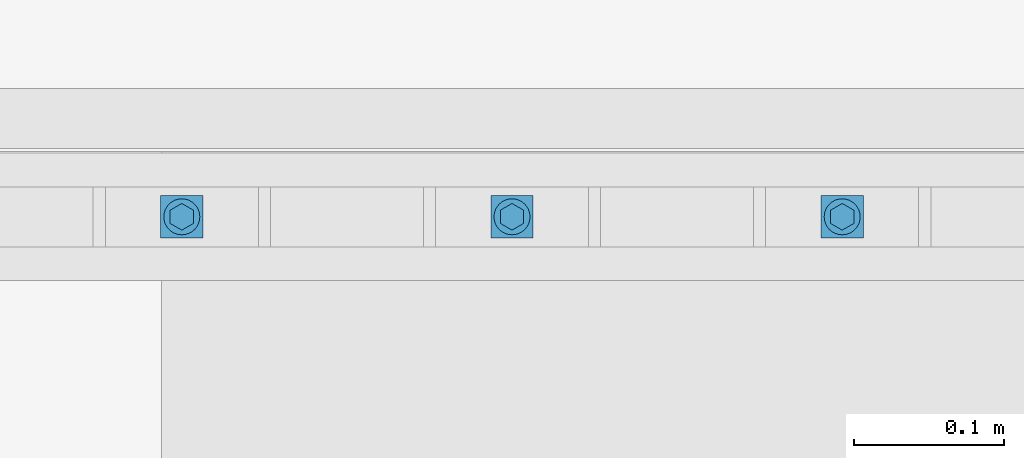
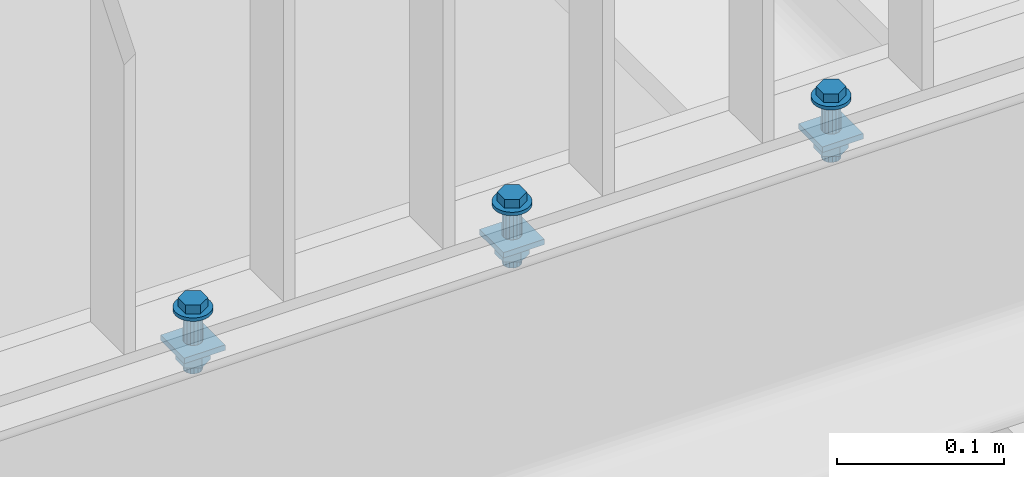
# One storey, part 53 of 145: 3 mechanical fasteners.
"""IFC2X3 building model written with IfcOpenShell, lengths in millimetres."""

from ifc_helpers import new_model, entity, si_unit, converted_unit, origin_with_axes, place, context, project, spatial, faceted_brep, element, save


model = new_model("IFC2X3")

# Units and contexts
model_context = context("Model", 3, precision=1e-09, world=origin_with_axes())
ifc_project = project(units=[si_unit("LENGTHUNIT", "METRE", prefix="MILLI"), si_unit("AREAUNIT", "SQUARE_METRE"), si_unit("VOLUMEUNIT", "CUBIC_METRE"), converted_unit("PLANEANGLEUNIT", "DEGREE", entity("IfcPlaneAngleMeasure", 0.01745329), si_unit("PLANEANGLEUNIT", "RADIAN"), dimensions=[0, 0, 0, 0, 0, 0, 0])], contexts=[model_context])

# Site, building, storey
site_placement = place(None, origin_with_axes())
site = spatial("IfcSite", under=ifc_project, at=site_placement, Name="BZ1 Grund- und Mittelschule 85716 Unterschlei?heim", CompositionType="ELEMENT")
building_placement = place(site_placement, origin_with_axes())
building = spatial("IfcBuilding", under=site, at=building_placement, Name="Struktur 1", CompositionType="ELEMENT")
storey_placement = place(building_placement, origin_with_axes())
storey = spatial("IfcBuildingStorey", under=building, at=storey_placement, Name="Default Storey", CompositionType="ELEMENT", Elevation=0.0)

# Mechanical fasteners
mechanical_fastener_1_placement = place(None, origin_with_axes())
element("IfcMechanicalFastener", 1, at=mechanical_fastener_1_placement, inside=storey, ObjectType="-", NominalDiameter=12.0, NominalLength=45.0, context=model_context, shape_type="Brep", body=[
    faceted_brep([(16730.141490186, -1512.502, 3308.000000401), (16730.141490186, -1512.502, 3310.500000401), (16729.910913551, -1514.843083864, 3310.500000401), (16729.910913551, -1514.843083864, 3308.000000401), (16729.228044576, -1517.094201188, 3310.500000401), (16729.228044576, -1517.094201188, 3308.000000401), (16728.119125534, -1519.168842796, 3310.500000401), (16728.119125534, -1519.168842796, 3308.000000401), (16726.62677156, -1520.987281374, 3310.500000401), (16726.62677156, -1520.987281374, 3308.000000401), (16724.808332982, -1522.479635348, 3310.500000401), (16724.808332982, -1522.479635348, 3308.000000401), (16722.733691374, -1523.58855439, 3310.500000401), (16722.733691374, -1523.58855439, 3308.000000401), (16720.48257405, -1524.271423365, 3310.500000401), (16720.48257405, -1524.271423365, 3308.000000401), (16718.141490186, -1524.502, 3310.500000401), (16718.141490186, -1524.502, 3308.000000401), (16715.800406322, -1524.271423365, 3310.500000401), (16715.800406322, -1524.271423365, 3308.000000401), (16713.549288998, -1523.58855439, 3310.500000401), (16713.549288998, -1523.58855439, 3308.000000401), (16711.47464739, -1522.479635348, 3310.500000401), (16711.47464739, -1522.479635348, 3308.000000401), (16709.656208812, -1520.987281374, 3310.500000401), (16709.656208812, -1520.987281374, 3308.000000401), (16708.163854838, -1519.168842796, 3310.500000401), (16708.163854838, -1519.168842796, 3308.000000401), (16707.054935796, -1517.094201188, 3310.500000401), (16707.054935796, -1517.094201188, 3308.000000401), (16706.372066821, -1514.843083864, 3310.500000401), (16706.372066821, -1514.843083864, 3308.000000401), (16706.141490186, -1512.502, 3310.500000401), (16706.141490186, -1512.502, 3308.000000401), (16706.372066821, -1510.160916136, 3310.500000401), (16706.372066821, -1510.160916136, 3308.000000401), (16707.054935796, -1507.909798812, 3310.500000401), (16707.054935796, -1507.909798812, 3308.000000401), (16708.163854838, -1505.835157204, 3310.500000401), (16708.163854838, -1505.835157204, 3308.000000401), (16709.656208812, -1504.016718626, 3310.500000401), (16709.656208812, -1504.016718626, 3308.000000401), (16711.47464739, -1502.524364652, 3310.500000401), (16711.47464739, -1502.524364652, 3308.000000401), (16713.549288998, -1501.41544561, 3310.500000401), (16713.549288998, -1501.41544561, 3308.000000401), (16715.800406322, -1500.732576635, 3310.500000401), (16715.800406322, -1500.732576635, 3308.000000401), (16718.141490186, -1500.502, 3310.500000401), (16718.141490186, -1500.502, 3308.000000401), (16720.48257405, -1500.732576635, 3310.500000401), (16720.48257405, -1500.732576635, 3308.000000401), (16722.733691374, -1501.41544561, 3310.500000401), (16722.733691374, -1501.41544561, 3308.000000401), (16724.808332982, -1502.524364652, 3310.500000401), (16724.808332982, -1502.524364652, 3308.000000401), (16726.62677156, -1504.016718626, 3310.500000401), (16726.62677156, -1504.016718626, 3308.000000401), (16728.119125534, -1505.835157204, 3310.500000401), (16728.119125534, -1505.835157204, 3308.000000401), (16729.228044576, -1507.909798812, 3310.500000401), (16729.228044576, -1507.909798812, 3308.000000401), (16729.910913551, -1510.160916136, 3310.500000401), (16729.910913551, -1510.160916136, 3308.000000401)], [[[0, 1, 2, 3]], [[3, 2, 4, 5]], [[5, 4, 6, 7]], [[7, 6, 8, 9]], [[9, 8, 10, 11]], [[11, 10, 12, 13]], [[13, 12, 14, 15]], [[15, 14, 16, 17]], [[17, 16, 18, 19]], [[19, 18, 20, 21]], [[21, 20, 22, 23]], [[23, 22, 24, 25]], [[25, 24, 26, 27]], [[27, 26, 28, 29]], [[29, 28, 30, 31]], [[31, 30, 32, 33]], [[33, 32, 34, 35]], [[35, 34, 36, 37]], [[37, 36, 38, 39]], [[39, 38, 40, 41]], [[41, 40, 42, 43]], [[43, 42, 44, 45]], [[45, 44, 46, 47]], [[47, 46, 48, 49]], [[49, 48, 50, 51]], [[51, 50, 52, 53]], [[53, 52, 54, 55]], [[55, 54, 56, 57]], [[57, 56, 58, 59]], [[59, 58, 60, 61]], [[61, 60, 62, 63]], [[63, 62, 1, 0]], [[2, 1, 62, 60, 58, 56, 54, 52, 50, 48, 46, 44, 42, 40, 38, 36, 34, 32, 30, 28, 26, 24, 22, 20, 18, 16, 14, 12, 10, 8, 6, 4]], [[63, 0, 3, 5, 7, 9, 11, 13, 15, 17, 19, 21, 23, 25, 27, 29, 31, 33, 35, 37, 39, 41, 43, 45, 47, 49, 51, 53, 55, 57, 59, 61]]]),
    faceted_brep([(16710.446854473, -1516.9445, 3316.900000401), (16710.446854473, -1516.9445, 3310.500000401), (16718.141490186, -1521.387, 3310.500000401), (16718.141490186, -1521.387, 3316.900000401), (16725.836125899, -1516.9445, 3310.500000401), (16725.836125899, -1516.9445, 3316.900000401), (16725.836125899, -1508.0595, 3310.500000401), (16725.836125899, -1508.0595, 3316.900000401), (16718.141490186, -1503.617, 3310.500000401), (16718.141490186, -1503.617, 3316.900000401), (16710.446854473, -1508.0595, 3310.500000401), (16710.446854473, -1508.0595, 3316.900000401)], [[[0, 1, 2, 3]], [[3, 2, 4, 5]], [[5, 4, 6, 7]], [[7, 6, 8, 9]], [[9, 8, 10, 11]], [[11, 10, 1, 0]], [[3, 5, 7, 9, 11, 0]], [[2, 1, 10, 8, 6, 4]]]),
    faceted_brep([(16724.141490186, -1512.502, 3286.197294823), (16724.141490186, -1512.502, 3308.000000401), (16723.684767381, -1514.798100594, 3308.000000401), (16723.684767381, -1514.798100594, 3286.197294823), (16722.384130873, -1516.744640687, 3308.000000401), (16722.384130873, -1516.744640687, 3286.197294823), (16720.43759078, -1518.045277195, 3308.000000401), (16720.43759078, -1518.045277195, 3286.197294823), (16718.141490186, -1518.502, 3308.000000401), (16718.141490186, -1518.502, 3286.197294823), (16715.845389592, -1518.045277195, 3308.000000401), (16715.845389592, -1518.045277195, 3286.197294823), (16713.898849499, -1516.744640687, 3308.000000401), (16713.898849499, -1516.744640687, 3286.197294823), (16712.598212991, -1514.798100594, 3308.000000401), (16712.598212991, -1514.798100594, 3286.197294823), (16712.141490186, -1512.502, 3308.000000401), (16712.141490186, -1512.502, 3286.197294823), (16712.598212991, -1510.205899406, 3308.000000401), (16712.598212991, -1510.205899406, 3286.197294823), (16713.898849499, -1508.259359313, 3308.000000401), (16713.898849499, -1508.259359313, 3286.197294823), (16715.845389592, -1506.958722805, 3308.000000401), (16715.845389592, -1506.958722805, 3286.197294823), (16718.141490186, -1506.502, 3308.000000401), (16718.141490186, -1506.502, 3286.197294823), (16720.43759078, -1506.958722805, 3308.000000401), (16720.43759078, -1506.958722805, 3286.197294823), (16722.384130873, -1508.259359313, 3308.000000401), (16722.384130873, -1508.259359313, 3286.197294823), (16723.684767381, -1510.205899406, 3308.000000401), (16723.684767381, -1510.205899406, 3286.197294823)], [[[0, 1, 2, 3]], [[3, 2, 4, 5]], [[5, 4, 6, 7]], [[7, 6, 8, 9]], [[9, 8, 10, 11]], [[11, 10, 12, 13]], [[13, 12, 14, 15]], [[15, 14, 16, 17]], [[17, 16, 18, 19]], [[19, 18, 20, 21]], [[21, 20, 22, 23]], [[23, 22, 24, 25]], [[25, 24, 26, 27]], [[27, 26, 28, 29]], [[29, 28, 30, 31]], [[31, 30, 1, 0]], [[2, 1, 30, 28, 26, 24, 22, 20, 18, 16, 14, 12, 10, 8, 6, 4]], [[31, 0, 3, 5, 7, 9, 11, 13, 15, 17, 19, 21, 23, 25, 27, 29]]]),
    faceted_brep([(16703.999354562, -1526.644135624, 3286.197294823), (16703.999354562, -1526.644135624, 3282.197294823), (16732.28362581, -1526.644135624, 3282.197294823), (16732.28362581, -1526.644135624, 3286.197294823), (16732.28362581, -1498.359864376, 3282.197294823), (16732.28362581, -1498.359864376, 3286.197294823), (16703.999354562, -1498.359864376, 3282.197294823), (16703.999354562, -1498.359864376, 3286.197294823)], [[[0, 1, 2, 3]], [[3, 2, 4, 5]], [[5, 4, 6, 7]], [[7, 6, 1, 0]], [[3, 5, 7, 0]], [[2, 1, 6, 4]]]),
    faceted_brep([(16709.004922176, -1517.777, 3282.197294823), (16709.004922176, -1517.777, 3272.197294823), (16718.141490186, -1523.052, 3272.197294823), (16718.141490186, -1523.052, 3282.197294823), (16727.278058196, -1517.777, 3272.197294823), (16727.278058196, -1517.777, 3282.197294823), (16727.278058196, -1507.227, 3272.197294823), (16727.278058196, -1507.227, 3282.197294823), (16718.141490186, -1501.952, 3272.197294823), (16718.141490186, -1501.952, 3282.197294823), (16709.004922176, -1507.227, 3272.197294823), (16709.004922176, -1507.227, 3282.197294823)], [[[0, 1, 2, 3]], [[3, 2, 4, 5]], [[5, 4, 6, 7]], [[7, 6, 8, 9]], [[9, 8, 10, 11]], [[11, 10, 1, 0]], [[3, 5, 7, 9, 11, 0]], [[2, 1, 10, 8, 6, 4]]]),
    faceted_brep([(16724.141490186, -1512.502, 3265.500000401), (16724.141490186, -1512.502, 3272.197294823), (16723.684767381, -1514.798100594, 3272.197294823), (16723.684767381, -1514.798100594, 3265.500000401), (16722.384130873, -1516.744640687, 3272.197294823), (16722.384130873, -1516.744640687, 3265.500000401), (16720.43759078, -1518.045277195, 3272.197294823), (16720.43759078, -1518.045277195, 3265.500000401), (16718.141490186, -1518.502, 3272.197294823), (16718.141490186, -1518.502, 3265.500000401), (16715.845389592, -1518.045277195, 3272.197294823), (16715.845389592, -1518.045277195, 3265.500000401), (16713.898849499, -1516.744640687, 3272.197294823), (16713.898849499, -1516.744640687, 3265.500000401), (16712.598212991, -1514.798100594, 3272.197294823), (16712.598212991, -1514.798100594, 3265.500000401), (16712.141490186, -1512.502, 3272.197294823), (16712.141490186, -1512.502, 3265.500000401), (16712.598212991, -1510.205899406, 3272.197294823), (16712.598212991, -1510.205899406, 3265.500000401), (16713.898849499, -1508.259359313, 3272.197294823), (16713.898849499, -1508.259359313, 3265.500000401), (16715.845389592, -1506.958722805, 3272.197294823), (16715.845389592, -1506.958722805, 3265.500000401), (16718.141490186, -1506.502, 3272.197294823), (16718.141490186, -1506.502, 3265.500000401), (16720.43759078, -1506.958722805, 3272.197294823), (16720.43759078, -1506.958722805, 3265.500000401), (16722.384130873, -1508.259359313, 3272.197294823), (16722.384130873, -1508.259359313, 3265.500000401), (16723.684767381, -1510.205899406, 3272.197294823), (16723.684767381, -1510.205899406, 3265.500000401)], [[[0, 1, 2, 3]], [[3, 2, 4, 5]], [[5, 4, 6, 7]], [[7, 6, 8, 9]], [[9, 8, 10, 11]], [[11, 10, 12, 13]], [[13, 12, 14, 15]], [[15, 14, 16, 17]], [[17, 16, 18, 19]], [[19, 18, 20, 21]], [[21, 20, 22, 23]], [[23, 22, 24, 25]], [[25, 24, 26, 27]], [[27, 26, 28, 29]], [[29, 28, 30, 31]], [[31, 30, 1, 0]], [[2, 1, 30, 28, 26, 24, 22, 20, 18, 16, 14, 12, 10, 8, 6, 4]], [[31, 0, 3, 5, 7, 9, 11, 13, 15, 17, 19, 21, 23, 25, 27, 29]]]),
])
mechanical_fastener_2_placement = place(None, origin_with_axes())
element("IfcMechanicalFastener", 2, at=mechanical_fastener_2_placement, inside=storey, ObjectType="-", NominalDiameter=12.0, NominalLength=45.0, context=model_context, shape_type="Brep", body=[
    faceted_brep([(16510.141490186, -1512.502, 3308.000000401), (16510.141490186, -1512.502, 3310.500000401), (16509.910913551, -1514.843083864, 3310.500000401), (16509.910913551, -1514.843083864, 3308.000000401), (16509.228044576, -1517.094201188, 3310.500000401), (16509.228044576, -1517.094201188, 3308.000000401), (16508.119125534, -1519.168842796, 3310.500000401), (16508.119125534, -1519.168842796, 3308.000000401), (16506.62677156, -1520.987281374, 3310.500000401), (16506.62677156, -1520.987281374, 3308.000000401), (16504.808332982, -1522.479635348, 3310.500000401), (16504.808332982, -1522.479635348, 3308.000000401), (16502.733691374, -1523.58855439, 3310.500000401), (16502.733691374, -1523.58855439, 3308.000000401), (16500.48257405, -1524.271423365, 3310.500000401), (16500.48257405, -1524.271423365, 3308.000000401), (16498.141490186, -1524.502, 3310.500000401), (16498.141490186, -1524.502, 3308.000000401), (16495.800406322, -1524.271423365, 3310.500000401), (16495.800406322, -1524.271423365, 3308.000000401), (16493.549288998, -1523.58855439, 3310.500000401), (16493.549288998, -1523.58855439, 3308.000000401), (16491.47464739, -1522.479635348, 3310.500000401), (16491.47464739, -1522.479635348, 3308.000000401), (16489.656208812, -1520.987281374, 3310.500000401), (16489.656208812, -1520.987281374, 3308.000000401), (16488.163854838, -1519.168842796, 3310.500000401), (16488.163854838, -1519.168842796, 3308.000000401), (16487.054935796, -1517.094201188, 3310.500000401), (16487.054935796, -1517.094201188, 3308.000000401), (16486.372066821, -1514.843083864, 3310.500000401), (16486.372066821, -1514.843083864, 3308.000000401), (16486.141490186, -1512.502, 3310.500000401), (16486.141490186, -1512.502, 3308.000000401), (16486.372066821, -1510.160916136, 3310.500000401), (16486.372066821, -1510.160916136, 3308.000000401), (16487.054935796, -1507.909798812, 3310.500000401), (16487.054935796, -1507.909798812, 3308.000000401), (16488.163854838, -1505.835157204, 3310.500000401), (16488.163854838, -1505.835157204, 3308.000000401), (16489.656208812, -1504.016718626, 3310.500000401), (16489.656208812, -1504.016718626, 3308.000000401), (16491.47464739, -1502.524364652, 3310.500000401), (16491.47464739, -1502.524364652, 3308.000000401), (16493.549288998, -1501.41544561, 3310.500000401), (16493.549288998, -1501.41544561, 3308.000000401), (16495.800406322, -1500.732576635, 3310.500000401), (16495.800406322, -1500.732576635, 3308.000000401), (16498.141490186, -1500.502, 3310.500000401), (16498.141490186, -1500.502, 3308.000000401), (16500.48257405, -1500.732576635, 3310.500000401), (16500.48257405, -1500.732576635, 3308.000000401), (16502.733691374, -1501.41544561, 3310.500000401), (16502.733691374, -1501.41544561, 3308.000000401), (16504.808332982, -1502.524364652, 3310.500000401), (16504.808332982, -1502.524364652, 3308.000000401), (16506.62677156, -1504.016718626, 3310.500000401), (16506.62677156, -1504.016718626, 3308.000000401), (16508.119125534, -1505.835157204, 3310.500000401), (16508.119125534, -1505.835157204, 3308.000000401), (16509.228044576, -1507.909798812, 3310.500000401), (16509.228044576, -1507.909798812, 3308.000000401), (16509.910913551, -1510.160916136, 3310.500000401), (16509.910913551, -1510.160916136, 3308.000000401)], [[[0, 1, 2, 3]], [[3, 2, 4, 5]], [[5, 4, 6, 7]], [[7, 6, 8, 9]], [[9, 8, 10, 11]], [[11, 10, 12, 13]], [[13, 12, 14, 15]], [[15, 14, 16, 17]], [[17, 16, 18, 19]], [[19, 18, 20, 21]], [[21, 20, 22, 23]], [[23, 22, 24, 25]], [[25, 24, 26, 27]], [[27, 26, 28, 29]], [[29, 28, 30, 31]], [[31, 30, 32, 33]], [[33, 32, 34, 35]], [[35, 34, 36, 37]], [[37, 36, 38, 39]], [[39, 38, 40, 41]], [[41, 40, 42, 43]], [[43, 42, 44, 45]], [[45, 44, 46, 47]], [[47, 46, 48, 49]], [[49, 48, 50, 51]], [[51, 50, 52, 53]], [[53, 52, 54, 55]], [[55, 54, 56, 57]], [[57, 56, 58, 59]], [[59, 58, 60, 61]], [[61, 60, 62, 63]], [[63, 62, 1, 0]], [[2, 1, 62, 60, 58, 56, 54, 52, 50, 48, 46, 44, 42, 40, 38, 36, 34, 32, 30, 28, 26, 24, 22, 20, 18, 16, 14, 12, 10, 8, 6, 4]], [[63, 0, 3, 5, 7, 9, 11, 13, 15, 17, 19, 21, 23, 25, 27, 29, 31, 33, 35, 37, 39, 41, 43, 45, 47, 49, 51, 53, 55, 57, 59, 61]]]),
    faceted_brep([(16490.446854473, -1516.9445, 3316.900000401), (16490.446854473, -1516.9445, 3310.500000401), (16498.141490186, -1521.387, 3310.500000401), (16498.141490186, -1521.387, 3316.900000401), (16505.836125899, -1516.9445, 3310.500000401), (16505.836125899, -1516.9445, 3316.900000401), (16505.836125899, -1508.0595, 3310.500000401), (16505.836125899, -1508.0595, 3316.900000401), (16498.141490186, -1503.617, 3310.500000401), (16498.141490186, -1503.617, 3316.900000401), (16490.446854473, -1508.0595, 3310.500000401), (16490.446854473, -1508.0595, 3316.900000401)], [[[0, 1, 2, 3]], [[3, 2, 4, 5]], [[5, 4, 6, 7]], [[7, 6, 8, 9]], [[9, 8, 10, 11]], [[11, 10, 1, 0]], [[3, 5, 7, 9, 11, 0]], [[2, 1, 10, 8, 6, 4]]]),
    faceted_brep([(16504.141490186, -1512.502, 3286.197294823), (16504.141490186, -1512.502, 3308.000000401), (16503.684767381, -1514.798100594, 3308.000000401), (16503.684767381, -1514.798100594, 3286.197294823), (16502.384130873, -1516.744640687, 3308.000000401), (16502.384130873, -1516.744640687, 3286.197294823), (16500.43759078, -1518.045277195, 3308.000000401), (16500.43759078, -1518.045277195, 3286.197294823), (16498.141490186, -1518.502, 3308.000000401), (16498.141490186, -1518.502, 3286.197294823), (16495.845389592, -1518.045277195, 3308.000000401), (16495.845389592, -1518.045277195, 3286.197294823), (16493.898849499, -1516.744640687, 3308.000000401), (16493.898849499, -1516.744640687, 3286.197294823), (16492.598212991, -1514.798100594, 3308.000000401), (16492.598212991, -1514.798100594, 3286.197294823), (16492.141490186, -1512.502, 3308.000000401), (16492.141490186, -1512.502, 3286.197294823), (16492.598212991, -1510.205899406, 3308.000000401), (16492.598212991, -1510.205899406, 3286.197294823), (16493.898849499, -1508.259359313, 3308.000000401), (16493.898849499, -1508.259359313, 3286.197294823), (16495.845389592, -1506.958722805, 3308.000000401), (16495.845389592, -1506.958722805, 3286.197294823), (16498.141490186, -1506.502, 3308.000000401), (16498.141490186, -1506.502, 3286.197294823), (16500.43759078, -1506.958722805, 3308.000000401), (16500.43759078, -1506.958722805, 3286.197294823), (16502.384130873, -1508.259359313, 3308.000000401), (16502.384130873, -1508.259359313, 3286.197294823), (16503.684767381, -1510.205899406, 3308.000000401), (16503.684767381, -1510.205899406, 3286.197294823)], [[[0, 1, 2, 3]], [[3, 2, 4, 5]], [[5, 4, 6, 7]], [[7, 6, 8, 9]], [[9, 8, 10, 11]], [[11, 10, 12, 13]], [[13, 12, 14, 15]], [[15, 14, 16, 17]], [[17, 16, 18, 19]], [[19, 18, 20, 21]], [[21, 20, 22, 23]], [[23, 22, 24, 25]], [[25, 24, 26, 27]], [[27, 26, 28, 29]], [[29, 28, 30, 31]], [[31, 30, 1, 0]], [[2, 1, 30, 28, 26, 24, 22, 20, 18, 16, 14, 12, 10, 8, 6, 4]], [[31, 0, 3, 5, 7, 9, 11, 13, 15, 17, 19, 21, 23, 25, 27, 29]]]),
    faceted_brep([(16483.999354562, -1526.644135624, 3286.197294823), (16483.999354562, -1526.644135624, 3282.197294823), (16512.28362581, -1526.644135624, 3282.197294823), (16512.28362581, -1526.644135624, 3286.197294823), (16512.28362581, -1498.359864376, 3282.197294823), (16512.28362581, -1498.359864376, 3286.197294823), (16483.999354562, -1498.359864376, 3282.197294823), (16483.999354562, -1498.359864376, 3286.197294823)], [[[0, 1, 2, 3]], [[3, 2, 4, 5]], [[5, 4, 6, 7]], [[7, 6, 1, 0]], [[3, 5, 7, 0]], [[2, 1, 6, 4]]]),
    faceted_brep([(16489.004922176, -1517.777, 3282.197294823), (16489.004922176, -1517.777, 3272.197294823), (16498.141490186, -1523.052, 3272.197294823), (16498.141490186, -1523.052, 3282.197294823), (16507.278058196, -1517.777, 3272.197294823), (16507.278058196, -1517.777, 3282.197294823), (16507.278058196, -1507.227, 3272.197294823), (16507.278058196, -1507.227, 3282.197294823), (16498.141490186, -1501.952, 3272.197294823), (16498.141490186, -1501.952, 3282.197294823), (16489.004922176, -1507.227, 3272.197294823), (16489.004922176, -1507.227, 3282.197294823)], [[[0, 1, 2, 3]], [[3, 2, 4, 5]], [[5, 4, 6, 7]], [[7, 6, 8, 9]], [[9, 8, 10, 11]], [[11, 10, 1, 0]], [[3, 5, 7, 9, 11, 0]], [[2, 1, 10, 8, 6, 4]]]),
    faceted_brep([(16504.141490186, -1512.502, 3265.500000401), (16504.141490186, -1512.502, 3272.197294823), (16503.684767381, -1514.798100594, 3272.197294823), (16503.684767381, -1514.798100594, 3265.500000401), (16502.384130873, -1516.744640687, 3272.197294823), (16502.384130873, -1516.744640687, 3265.500000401), (16500.43759078, -1518.045277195, 3272.197294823), (16500.43759078, -1518.045277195, 3265.500000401), (16498.141490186, -1518.502, 3272.197294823), (16498.141490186, -1518.502, 3265.500000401), (16495.845389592, -1518.045277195, 3272.197294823), (16495.845389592, -1518.045277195, 3265.500000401), (16493.898849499, -1516.744640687, 3272.197294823), (16493.898849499, -1516.744640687, 3265.500000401), (16492.598212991, -1514.798100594, 3272.197294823), (16492.598212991, -1514.798100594, 3265.500000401), (16492.141490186, -1512.502, 3272.197294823), (16492.141490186, -1512.502, 3265.500000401), (16492.598212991, -1510.205899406, 3272.197294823), (16492.598212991, -1510.205899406, 3265.500000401), (16493.898849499, -1508.259359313, 3272.197294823), (16493.898849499, -1508.259359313, 3265.500000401), (16495.845389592, -1506.958722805, 3272.197294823), (16495.845389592, -1506.958722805, 3265.500000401), (16498.141490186, -1506.502, 3272.197294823), (16498.141490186, -1506.502, 3265.500000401), (16500.43759078, -1506.958722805, 3272.197294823), (16500.43759078, -1506.958722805, 3265.500000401), (16502.384130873, -1508.259359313, 3272.197294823), (16502.384130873, -1508.259359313, 3265.500000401), (16503.684767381, -1510.205899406, 3272.197294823), (16503.684767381, -1510.205899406, 3265.500000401)], [[[0, 1, 2, 3]], [[3, 2, 4, 5]], [[5, 4, 6, 7]], [[7, 6, 8, 9]], [[9, 8, 10, 11]], [[11, 10, 12, 13]], [[13, 12, 14, 15]], [[15, 14, 16, 17]], [[17, 16, 18, 19]], [[19, 18, 20, 21]], [[21, 20, 22, 23]], [[23, 22, 24, 25]], [[25, 24, 26, 27]], [[27, 26, 28, 29]], [[29, 28, 30, 31]], [[31, 30, 1, 0]], [[2, 1, 30, 28, 26, 24, 22, 20, 18, 16, 14, 12, 10, 8, 6, 4]], [[31, 0, 3, 5, 7, 9, 11, 13, 15, 17, 19, 21, 23, 25, 27, 29]]]),
])
mechanical_fastener_3_placement = place(None, origin_with_axes())
element("IfcMechanicalFastener", 3, at=mechanical_fastener_3_placement, inside=storey, ObjectType="-", NominalDiameter=12.0, NominalLength=45.0, context=model_context, shape_type="Brep", body=[
    faceted_brep([(16290.141490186, -1512.502, 3308.000000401), (16290.141490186, -1512.502, 3310.500000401), (16289.910913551, -1514.843083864, 3310.500000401), (16289.910913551, -1514.843083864, 3308.000000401), (16289.228044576, -1517.094201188, 3310.500000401), (16289.228044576, -1517.094201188, 3308.000000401), (16288.119125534, -1519.168842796, 3310.500000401), (16288.119125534, -1519.168842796, 3308.000000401), (16286.62677156, -1520.987281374, 3310.500000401), (16286.62677156, -1520.987281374, 3308.000000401), (16284.808332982, -1522.479635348, 3310.500000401), (16284.808332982, -1522.479635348, 3308.000000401), (16282.733691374, -1523.58855439, 3310.500000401), (16282.733691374, -1523.58855439, 3308.000000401), (16280.48257405, -1524.271423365, 3310.500000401), (16280.48257405, -1524.271423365, 3308.000000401), (16278.141490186, -1524.502, 3310.500000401), (16278.141490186, -1524.502, 3308.000000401), (16275.800406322, -1524.271423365, 3310.500000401), (16275.800406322, -1524.271423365, 3308.000000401), (16273.549288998, -1523.58855439, 3310.500000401), (16273.549288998, -1523.58855439, 3308.000000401), (16271.47464739, -1522.479635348, 3310.500000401), (16271.47464739, -1522.479635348, 3308.000000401), (16269.656208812, -1520.987281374, 3310.500000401), (16269.656208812, -1520.987281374, 3308.000000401), (16268.163854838, -1519.168842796, 3310.500000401), (16268.163854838, -1519.168842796, 3308.000000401), (16267.054935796, -1517.094201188, 3310.500000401), (16267.054935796, -1517.094201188, 3308.000000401), (16266.372066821, -1514.843083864, 3310.500000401), (16266.372066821, -1514.843083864, 3308.000000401), (16266.141490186, -1512.502, 3310.500000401), (16266.141490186, -1512.502, 3308.000000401), (16266.372066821, -1510.160916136, 3310.500000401), (16266.372066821, -1510.160916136, 3308.000000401), (16267.054935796, -1507.909798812, 3310.500000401), (16267.054935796, -1507.909798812, 3308.000000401), (16268.163854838, -1505.835157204, 3310.500000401), (16268.163854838, -1505.835157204, 3308.000000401), (16269.656208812, -1504.016718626, 3310.500000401), (16269.656208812, -1504.016718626, 3308.000000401), (16271.47464739, -1502.524364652, 3310.500000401), (16271.47464739, -1502.524364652, 3308.000000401), (16273.549288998, -1501.41544561, 3310.500000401), (16273.549288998, -1501.41544561, 3308.000000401), (16275.800406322, -1500.732576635, 3310.500000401), (16275.800406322, -1500.732576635, 3308.000000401), (16278.141490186, -1500.502, 3310.500000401), (16278.141490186, -1500.502, 3308.000000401), (16280.48257405, -1500.732576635, 3310.500000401), (16280.48257405, -1500.732576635, 3308.000000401), (16282.733691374, -1501.41544561, 3310.500000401), (16282.733691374, -1501.41544561, 3308.000000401), (16284.808332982, -1502.524364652, 3310.500000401), (16284.808332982, -1502.524364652, 3308.000000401), (16286.62677156, -1504.016718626, 3310.500000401), (16286.62677156, -1504.016718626, 3308.000000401), (16288.119125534, -1505.835157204, 3310.500000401), (16288.119125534, -1505.835157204, 3308.000000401), (16289.228044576, -1507.909798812, 3310.500000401), (16289.228044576, -1507.909798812, 3308.000000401), (16289.910913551, -1510.160916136, 3310.500000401), (16289.910913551, -1510.160916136, 3308.000000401)], [[[0, 1, 2, 3]], [[3, 2, 4, 5]], [[5, 4, 6, 7]], [[7, 6, 8, 9]], [[9, 8, 10, 11]], [[11, 10, 12, 13]], [[13, 12, 14, 15]], [[15, 14, 16, 17]], [[17, 16, 18, 19]], [[19, 18, 20, 21]], [[21, 20, 22, 23]], [[23, 22, 24, 25]], [[25, 24, 26, 27]], [[27, 26, 28, 29]], [[29, 28, 30, 31]], [[31, 30, 32, 33]], [[33, 32, 34, 35]], [[35, 34, 36, 37]], [[37, 36, 38, 39]], [[39, 38, 40, 41]], [[41, 40, 42, 43]], [[43, 42, 44, 45]], [[45, 44, 46, 47]], [[47, 46, 48, 49]], [[49, 48, 50, 51]], [[51, 50, 52, 53]], [[53, 52, 54, 55]], [[55, 54, 56, 57]], [[57, 56, 58, 59]], [[59, 58, 60, 61]], [[61, 60, 62, 63]], [[63, 62, 1, 0]], [[2, 1, 62, 60, 58, 56, 54, 52, 50, 48, 46, 44, 42, 40, 38, 36, 34, 32, 30, 28, 26, 24, 22, 20, 18, 16, 14, 12, 10, 8, 6, 4]], [[63, 0, 3, 5, 7, 9, 11, 13, 15, 17, 19, 21, 23, 25, 27, 29, 31, 33, 35, 37, 39, 41, 43, 45, 47, 49, 51, 53, 55, 57, 59, 61]]]),
    faceted_brep([(16270.446854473, -1516.9445, 3316.900000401), (16270.446854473, -1516.9445, 3310.500000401), (16278.141490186, -1521.387, 3310.500000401), (16278.141490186, -1521.387, 3316.900000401), (16285.836125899, -1516.9445, 3310.500000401), (16285.836125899, -1516.9445, 3316.900000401), (16285.836125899, -1508.0595, 3310.500000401), (16285.836125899, -1508.0595, 3316.900000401), (16278.141490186, -1503.617, 3310.500000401), (16278.141490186, -1503.617, 3316.900000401), (16270.446854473, -1508.0595, 3310.500000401), (16270.446854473, -1508.0595, 3316.900000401)], [[[0, 1, 2, 3]], [[3, 2, 4, 5]], [[5, 4, 6, 7]], [[7, 6, 8, 9]], [[9, 8, 10, 11]], [[11, 10, 1, 0]], [[3, 5, 7, 9, 11, 0]], [[2, 1, 10, 8, 6, 4]]]),
    faceted_brep([(16284.141490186, -1512.502, 3286.197294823), (16284.141490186, -1512.502, 3308.000000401), (16283.684767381, -1514.798100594, 3308.000000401), (16283.684767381, -1514.798100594, 3286.197294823), (16282.384130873, -1516.744640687, 3308.000000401), (16282.384130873, -1516.744640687, 3286.197294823), (16280.43759078, -1518.045277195, 3308.000000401), (16280.43759078, -1518.045277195, 3286.197294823), (16278.141490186, -1518.502, 3308.000000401), (16278.141490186, -1518.502, 3286.197294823), (16275.845389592, -1518.045277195, 3308.000000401), (16275.845389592, -1518.045277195, 3286.197294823), (16273.898849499, -1516.744640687, 3308.000000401), (16273.898849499, -1516.744640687, 3286.197294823), (16272.598212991, -1514.798100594, 3308.000000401), (16272.598212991, -1514.798100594, 3286.197294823), (16272.141490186, -1512.502, 3308.000000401), (16272.141490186, -1512.502, 3286.197294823), (16272.598212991, -1510.205899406, 3308.000000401), (16272.598212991, -1510.205899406, 3286.197294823), (16273.898849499, -1508.259359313, 3308.000000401), (16273.898849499, -1508.259359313, 3286.197294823), (16275.845389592, -1506.958722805, 3308.000000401), (16275.845389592, -1506.958722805, 3286.197294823), (16278.141490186, -1506.502, 3308.000000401), (16278.141490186, -1506.502, 3286.197294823), (16280.43759078, -1506.958722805, 3308.000000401), (16280.43759078, -1506.958722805, 3286.197294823), (16282.384130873, -1508.259359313, 3308.000000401), (16282.384130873, -1508.259359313, 3286.197294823), (16283.684767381, -1510.205899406, 3308.000000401), (16283.684767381, -1510.205899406, 3286.197294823)], [[[0, 1, 2, 3]], [[3, 2, 4, 5]], [[5, 4, 6, 7]], [[7, 6, 8, 9]], [[9, 8, 10, 11]], [[11, 10, 12, 13]], [[13, 12, 14, 15]], [[15, 14, 16, 17]], [[17, 16, 18, 19]], [[19, 18, 20, 21]], [[21, 20, 22, 23]], [[23, 22, 24, 25]], [[25, 24, 26, 27]], [[27, 26, 28, 29]], [[29, 28, 30, 31]], [[31, 30, 1, 0]], [[2, 1, 30, 28, 26, 24, 22, 20, 18, 16, 14, 12, 10, 8, 6, 4]], [[31, 0, 3, 5, 7, 9, 11, 13, 15, 17, 19, 21, 23, 25, 27, 29]]]),
    faceted_brep([(16263.999354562, -1526.644135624, 3286.197294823), (16263.999354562, -1526.644135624, 3282.197294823), (16292.28362581, -1526.644135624, 3282.197294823), (16292.28362581, -1526.644135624, 3286.197294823), (16292.28362581, -1498.359864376, 3282.197294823), (16292.28362581, -1498.359864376, 3286.197294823), (16263.999354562, -1498.359864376, 3282.197294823), (16263.999354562, -1498.359864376, 3286.197294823)], [[[0, 1, 2, 3]], [[3, 2, 4, 5]], [[5, 4, 6, 7]], [[7, 6, 1, 0]], [[3, 5, 7, 0]], [[2, 1, 6, 4]]]),
    faceted_brep([(16269.004922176, -1517.777, 3282.197294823), (16269.004922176, -1517.777, 3272.197294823), (16278.141490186, -1523.052, 3272.197294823), (16278.141490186, -1523.052, 3282.197294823), (16287.278058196, -1517.777, 3272.197294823), (16287.278058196, -1517.777, 3282.197294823), (16287.278058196, -1507.227, 3272.197294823), (16287.278058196, -1507.227, 3282.197294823), (16278.141490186, -1501.952, 3272.197294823), (16278.141490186, -1501.952, 3282.197294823), (16269.004922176, -1507.227, 3272.197294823), (16269.004922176, -1507.227, 3282.197294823)], [[[0, 1, 2, 3]], [[3, 2, 4, 5]], [[5, 4, 6, 7]], [[7, 6, 8, 9]], [[9, 8, 10, 11]], [[11, 10, 1, 0]], [[3, 5, 7, 9, 11, 0]], [[2, 1, 10, 8, 6, 4]]]),
    faceted_brep([(16284.141490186, -1512.502, 3265.500000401), (16284.141490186, -1512.502, 3272.197294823), (16283.684767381, -1514.798100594, 3272.197294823), (16283.684767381, -1514.798100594, 3265.500000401), (16282.384130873, -1516.744640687, 3272.197294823), (16282.384130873, -1516.744640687, 3265.500000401), (16280.43759078, -1518.045277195, 3272.197294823), (16280.43759078, -1518.045277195, 3265.500000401), (16278.141490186, -1518.502, 3272.197294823), (16278.141490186, -1518.502, 3265.500000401), (16275.845389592, -1518.045277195, 3272.197294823), (16275.845389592, -1518.045277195, 3265.500000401), (16273.898849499, -1516.744640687, 3272.197294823), (16273.898849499, -1516.744640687, 3265.500000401), (16272.598212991, -1514.798100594, 3272.197294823), (16272.598212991, -1514.798100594, 3265.500000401), (16272.141490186, -1512.502, 3272.197294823), (16272.141490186, -1512.502, 3265.500000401), (16272.598212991, -1510.205899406, 3272.197294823), (16272.598212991, -1510.205899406, 3265.500000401), (16273.898849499, -1508.259359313, 3272.197294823), (16273.898849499, -1508.259359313, 3265.500000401), (16275.845389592, -1506.958722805, 3272.197294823), (16275.845389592, -1506.958722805, 3265.500000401), (16278.141490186, -1506.502, 3272.197294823), (16278.141490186, -1506.502, 3265.500000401), (16280.43759078, -1506.958722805, 3272.197294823), (16280.43759078, -1506.958722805, 3265.500000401), (16282.384130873, -1508.259359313, 3272.197294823), (16282.384130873, -1508.259359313, 3265.500000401), (16283.684767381, -1510.205899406, 3272.197294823), (16283.684767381, -1510.205899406, 3265.500000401)], [[[0, 1, 2, 3]], [[3, 2, 4, 5]], [[5, 4, 6, 7]], [[7, 6, 8, 9]], [[9, 8, 10, 11]], [[11, 10, 12, 13]], [[13, 12, 14, 15]], [[15, 14, 16, 17]], [[17, 16, 18, 19]], [[19, 18, 20, 21]], [[21, 20, 22, 23]], [[23, 22, 24, 25]], [[25, 24, 26, 27]], [[27, 26, 28, 29]], [[29, 28, 30, 31]], [[31, 30, 1, 0]], [[2, 1, 30, 28, 26, 24, 22, 20, 18, 16, 14, 12, 10, 8, 6, 4]], [[31, 0, 3, 5, 7, 9, 11, 13, 15, 17, 19, 21, 23, 25, 27, 29]]]),
])

save(model, "model.ifc")
